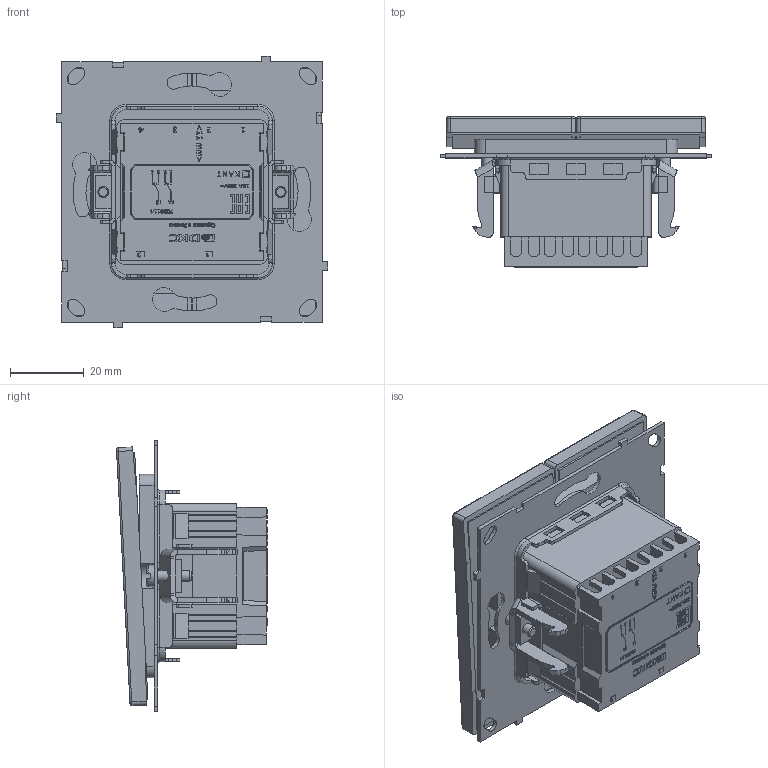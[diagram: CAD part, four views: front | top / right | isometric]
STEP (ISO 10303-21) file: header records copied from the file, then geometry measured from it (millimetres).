
FILE_DESCRIPTION (( 'STEP AP203' ), '1' );
FILE_NAME ('7000114.STEP', '2025-10-29T08:53:30', ( '' ), ( '' ), 'SwSTEP 2.0', 'SolidWorks 2022', '' );
FILE_SCHEMA (( 'CONFIG_CONTROL_DESIGN' ));
Length unit declared in the file: millimetre
Products named in the file (1): 7000114
Bounding box: 73.5 x 40.88 x 73.5 mm (x, y, z)
Volume: 80376 mm3; surface area: 29941.5 mm2
Topology: 3 solids, 3 shells, 1765 faces, 4879 edges, 3194 vertices
Faces by surface type: plane 1123, bspline 378, cylinder 230, torus 22, cone 12
Full cylindrical faces by diameter (mm): 3 x4, 3.3 x2
Entity records: 69130 total; most frequent: CARTESIAN_POINT 26383, ORIENTED_EDGE 9718, DIRECTION 7293, EDGE_CURVE 4859, VECTOR 3553, LINE 3553, VERTEX_POINT 3186, EDGE_LOOP 1915
